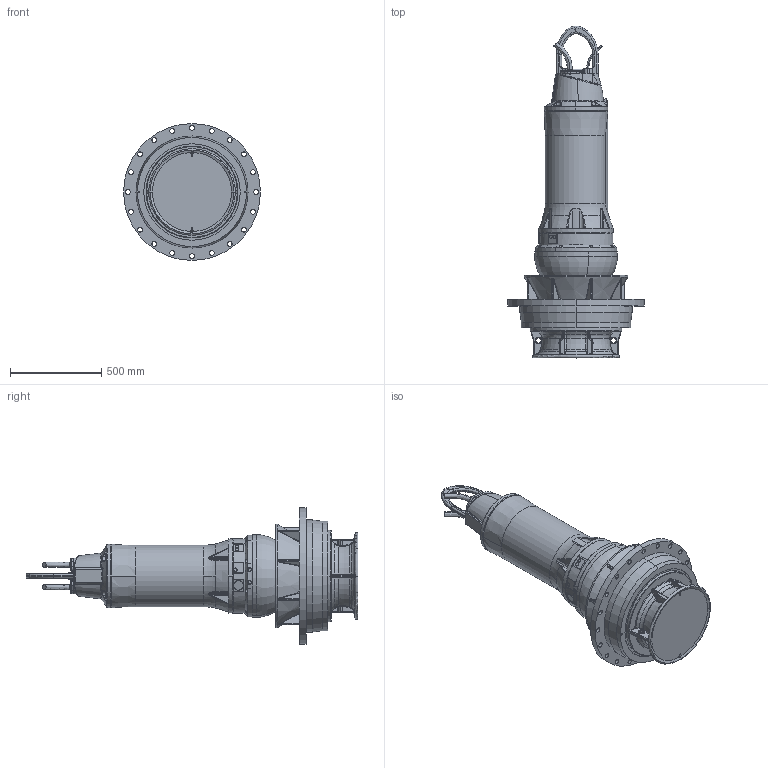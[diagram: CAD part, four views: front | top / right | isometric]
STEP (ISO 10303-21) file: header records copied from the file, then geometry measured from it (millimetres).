
FILE_DESCRIPTION (( 'STEP AP214' ), '1' );
FILE_NAME ('PE4_VUPX0400_DIN_B_NG2.STEP', '2017-03-07T06:42:19', ( '' ), ( '' ), 'SwSTEP 2.0', 'SolidWorks 2017', '' );
FILE_SCHEMA (( 'AUTOMOTIVE_DESIGN' ));
Length unit declared in the file: millimetre
Products named in the file (1): PE4_VUPX0400_DIN_B_NG2
Bounding box: 752 x 1823.4 x 752 mm (x, y, z)
Volume: 192066305.6 mm3; surface area: 4024138.2 mm2
Topology: 4 solids, 8 shells, 1622 faces, 3895 edges, 2277 vertices
Faces by surface type: bspline 507, cylinder 487, plane 262, torus 208, cone 112, sphere 46
Entity records: 93562 total; most frequent: CARTESIAN_POINT 41813, ORIENTED_EDGE 7702, DIRECTION 6411, EDGE_CURVE 3851, AXIS2_PLACEMENT_3D 2740, VERTEX_POINT 2277, EDGE_LOOP 1708, UNCERTAINTY_MEASURE_WITH_UNIT 1628
